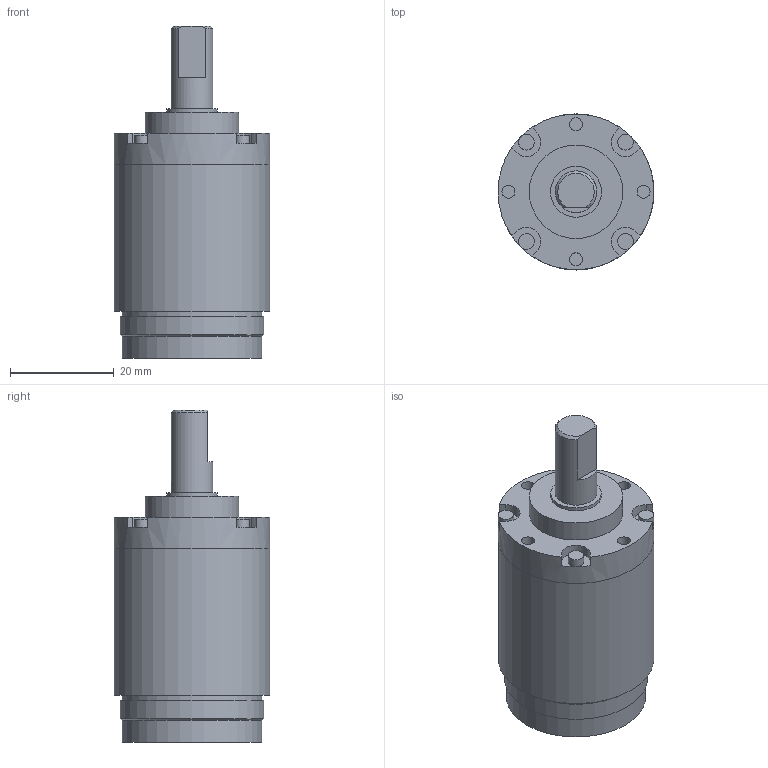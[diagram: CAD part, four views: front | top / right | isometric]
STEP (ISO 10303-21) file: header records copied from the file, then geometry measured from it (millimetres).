
FILE_DESCRIPTION(/* description */ (''),/* implementation_level */ '2;1');
FILE_NAME(/* name */ '30-1_4.stp',/* time_stamp */ '2016-09-07T10:17:51+02:00',/* author */ ('DR. FRITZ FAULHABER GmbH & Co. KG'),/* organization */ ('DR. FRITZ FAULHABER GmbH & Co. KG'),/* preprocessor_version */ 'ST-DEVELOPER v16',/* originating_system */ 'SIEMENS PLM Software NX 10.0',/* authorisation */ '');
FILE_SCHEMA (('AUTOMOTIVE_DESIGN { 1 0 10303 214 3 1 1 1 }'));
Length unit declared in the file: millimetre
Products named in the file (1): H00000175_A
Bounding box: 30 x 30 x 63.9 mm (x, y, z)
Volume: 30473 mm3; surface area: 6559.9 mm2
Topology: 1 solids, 1 shells, 62 faces, 153 edges, 119 vertices
Faces by surface type: plane 35, cylinder 25, cone 2
Full cylindrical faces by diameter (mm): 2.5 x4, 3 x4, 8 x1, 9.8 x1, 11.88 x1, 12.08 x1, 18 x1, 21.5 x1, 22.05 x1, 26.8 x2, 27.6 x1, 29.99 x1, 30 x2
Entity records: 1751 total; most frequent: DIRECTION 325, CARTESIAN_POINT 272, ORIENTED_EDGE 202, AXIS2_PLACEMENT_3D 140, EDGE_CURVE 101, EDGE_LOOP 99, VERTEX_POINT 78, CIRCLE 77
